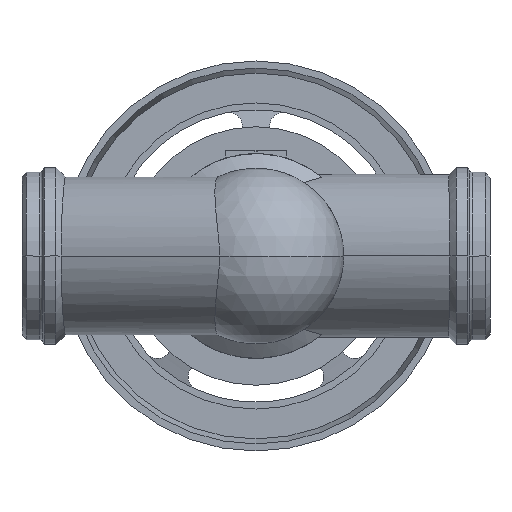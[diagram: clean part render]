
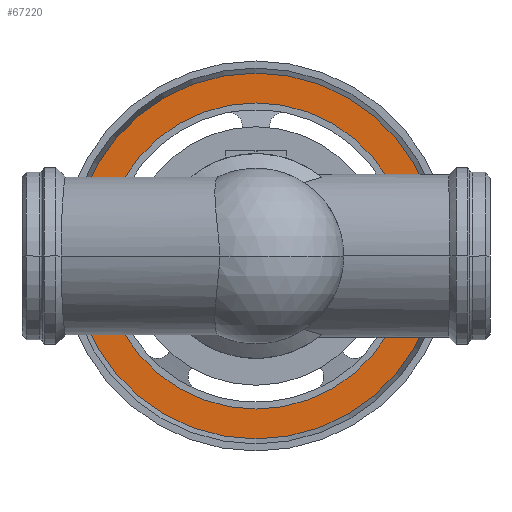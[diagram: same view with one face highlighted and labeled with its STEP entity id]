
A CAD part, front view. The second image highlights one B-rep face of the part: STEP entity #67220.
In plain terms, the highlighted planar face has unit normal (0, -1, 0).
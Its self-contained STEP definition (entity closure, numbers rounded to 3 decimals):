
#66670=CARTESIAN_POINT('',(52.338,595.5,0.));
#66680=VERTEX_POINT('',#66670);
#66760=CARTESIAN_POINT('',(427.662,595.5,0.)
);
#66770=VERTEX_POINT('',#66760);
#66800=CARTESIAN_POINT('',(240.,595.5,0.));
#66810=DIRECTION('',(0.,1.,0.));
#66820=DIRECTION('',(-1.,0.,0.));
#66830=AXIS2_PLACEMENT_3D('',#66800,#66810,#66820);
#66840=CIRCLE('',#66830,187.662);
#66850=EDGE_CURVE('',#66680,#66770,#66840,.T.);
#66970=CARTESIAN_POINT('',(67.669,595.5,0.));
#66980=DIRECTION('',(0.,-1.,0.));
#66990=DIRECTION('',(1.,0.,0.));
#67000=AXIS2_PLACEMENT_3D('',#66970,#66980,#66990);
#67010=PLANE('',#67000);
#67020=EDGE_CURVE('',#66770,#66680,#66840,.T.);
#67030=ORIENTED_EDGE('',*,*,#67020,.F.);
#67040=ORIENTED_EDGE('',*,*,#66850,.F.);
#67050=EDGE_LOOP('',(#67040,#67030));
#67060=FACE_OUTER_BOUND('',#67050,.T.);
#67070=CARTESIAN_POINT('',(240.,595.5,0.));
#67080=DIRECTION('',(0.,1.,0.));
#67090=DIRECTION('',(-1.,0.,0.));
#67100=AXIS2_PLACEMENT_3D('',#67070,#67080,#67090);
#67110=CIRCLE('',#67100,157.);
#67120=CARTESIAN_POINT('',(397.,595.5,0.));
#67130=VERTEX_POINT('',#67120);
#67140=CARTESIAN_POINT('',(83.,595.5,0.));
#67150=VERTEX_POINT('',#67140);
#67160=EDGE_CURVE('',#67130,#67150,#67110,.T.);
#67170=ORIENTED_EDGE('',*,*,#67160,.T.);
#67180=EDGE_CURVE('',#67150,#67130,#67110,.T.);
#67190=ORIENTED_EDGE('',*,*,#67180,.T.);
#67200=EDGE_LOOP('',(#67190,#67170));
#67210=FACE_BOUND('',#67200,.T.);
#67220=ADVANCED_FACE('',(#67060,#67210),#67010,.T.);
